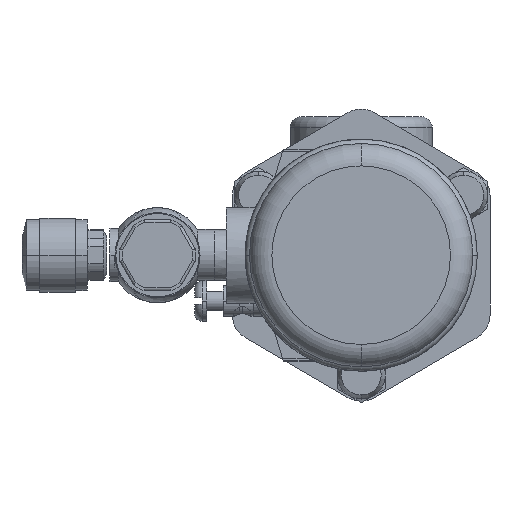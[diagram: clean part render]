
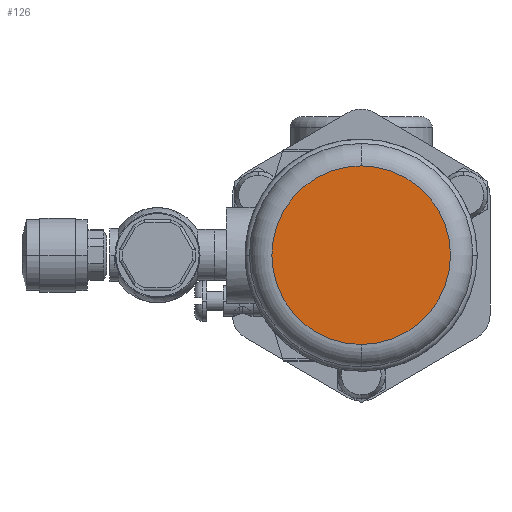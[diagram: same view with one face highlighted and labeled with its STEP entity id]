
A CAD part, left-side view. The second image highlights one B-rep face of the part: STEP entity #126.
In plain terms, the highlighted planar face has unit normal (-1, 0, 0).
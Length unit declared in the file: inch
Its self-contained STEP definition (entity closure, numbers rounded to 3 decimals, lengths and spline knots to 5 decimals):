
#19=CARTESIAN_POINT('',(-0.90551,0.,0.));
#20=DIRECTION('',(-1.,0.,0.));
#21=DIRECTION('',(0.,0.,1.));
#22=AXIS2_PLACEMENT_3D('',#19,#20,#21);
#39=CARTESIAN_POINT('',(-0.90551,0.,0.));
#40=DIRECTION('',(1.,0.,0.));
#41=DIRECTION('',(0.,0.,1.));
#42=AXIS2_PLACEMENT_3D('',#39,#40,#41);
#53=CARTESIAN_POINT('',(-0.90551,0.,0.93898));
#54=CARTESIAN_POINT('',(-0.90551,0.,-0.93898));
#55=VERTEX_POINT('',#53);
#56=VERTEX_POINT('',#54);
#116=CARTESIAN_POINT('',(-0.90551,0.,0.));
#117=DIRECTION('',(-1.,0.,0.));
#118=DIRECTION('',(0.,0.,-1.));
#119=AXIS2_PLACEMENT_3D('',#116,#117,#118);
#120=PLANE('',#119);
#121=ORIENTED_EDGE('',*,*,#106,.F.);
#123=ORIENTED_EDGE('',*,*,#122,.T.);
#124=EDGE_LOOP('',(#121,#123));
#125=FACE_OUTER_BOUND('',#124,.F.);
#126=ADVANCED_FACE('',(#125),#120,.T.);
#23=CIRCLE('',#22,0.93898);
#43=CIRCLE('',#42,0.93898);
#106=EDGE_CURVE('',#55,#56,#23,.T.);
#122=EDGE_CURVE('',#55,#56,#43,.T.);
